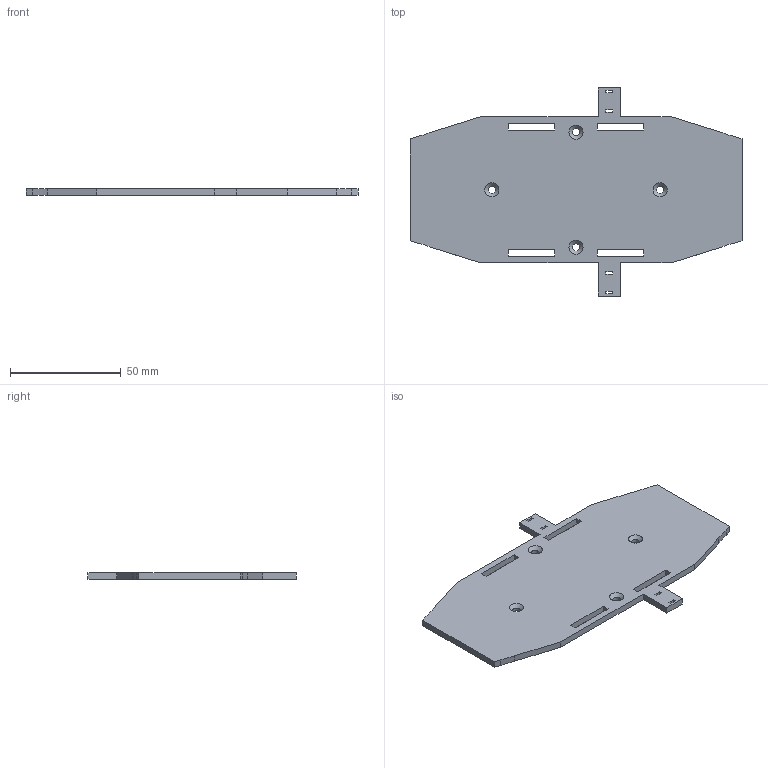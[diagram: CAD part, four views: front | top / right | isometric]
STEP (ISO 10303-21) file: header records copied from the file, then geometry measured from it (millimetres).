
FILE_DESCRIPTION(('FreeCAD Model'),'2;1');
FILE_NAME('Open CASCADE Shape Model','2026-10-23T15:45:23',('FreeCAD'),( 'FreeCAD'),'Open CASCADE STEP processor 7.8','FreeCAD','Unknown');
FILE_SCHEMA(('AUTOMOTIVE_DESIGN { 1 0 10303 214 1 1 1 1 }'));
Length unit declared in the file: millimetre
Products named in the file (1): Open CASCADE STEP translator 7.8 2
Bounding box: 150 x 94 x 3 mm (x, y, z)
Volume: 27646.5 mm3; surface area: 20614 mm2
Topology: 1 solids, 1 shells, 66 faces, 188 edges, 124 vertices
Faces by surface type: plane 54, cylinder 8, cone 4
Full cylindrical faces by diameter (mm): 3.4 x4
Entity records: 2178 total; most frequent: CARTESIAN_POINT 379, ORIENTED_EDGE 376, DIRECTION 342, EDGE_CURVE 188, LINE 168, VECTOR 168, VERTEX_POINT 124, FACE_BOUND 90
